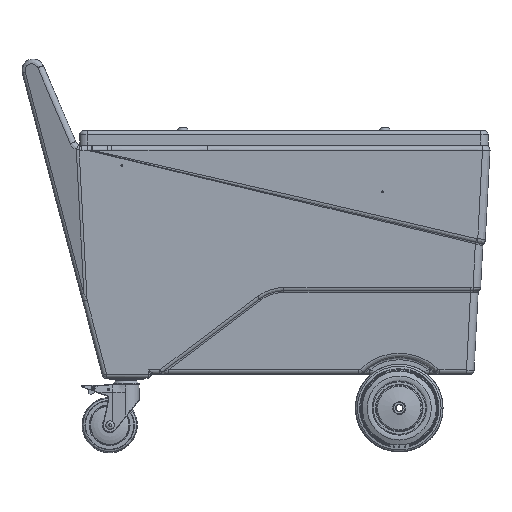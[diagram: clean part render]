
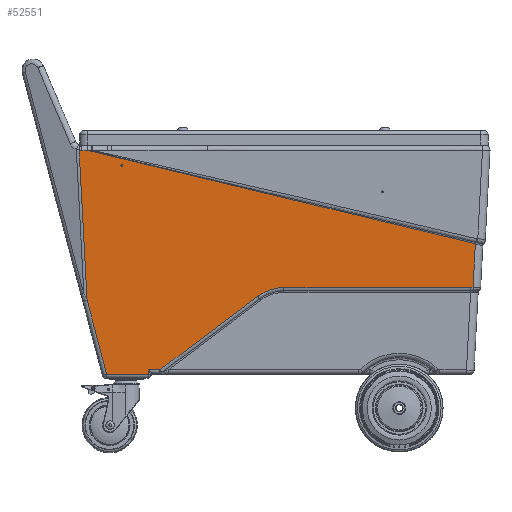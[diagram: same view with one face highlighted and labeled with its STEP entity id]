
A CAD part, left-side view. The second image highlights one B-rep face of the part: STEP entity #52551.
In plain terms, the highlighted planar face has unit normal (-0.999, 0, -0.035).
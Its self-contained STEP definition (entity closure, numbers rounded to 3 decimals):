
#1903=PLANE('',#57901);
#3637=LINE('',#82381,#7091);
#3641=LINE('',#82691,#7095);
#3648=LINE('',#84710,#7102);
#3649=LINE('',#84762,#7103);
#3651=LINE('',#84985,#7105);
#3654=LINE('',#85322,#7108);
#3663=LINE('',#85845,#7117);
#3664=LINE('',#85849,#7118);
#3665=LINE('',#85853,#7119);
#3666=LINE('',#85854,#7120);
#7091=VECTOR('',#64495,1000.);
#7095=VECTOR('',#64535,1000.);
#7102=VECTOR('',#64908,1000.);
#7103=VECTOR('',#64913,1000.);
#7105=VECTOR('',#64967,1000.);
#7108=VECTOR('',#65036,1000.);
#7117=VECTOR('',#65141,1000.);
#7118=VECTOR('',#65146,1000.);
#7119=VECTOR('',#65149,1000.);
#7120=VECTOR('',#65150,1000.);
#10482=B_SPLINE_CURVE_WITH_KNOTS('',3,(#84696,#84697,#84698,#84699),
 .UNSPECIFIED.,.F.,.F.,(4,4),(0.,0.006),.UNSPECIFIED.);
#10485=B_SPLINE_CURVE_WITH_KNOTS('',3,(#84752,#84753,#84754,#84755,#84756,
#84757,#84758,#84759,#84760),.UNSPECIFIED.,.F.,.F.,(4,1,1,1,1,1,4),(0.,
0.016,0.024,0.032,0.04,
0.047,0.063),.UNSPECIFIED.);
#11538=ELLIPSE('',#57854,25.015,25.);
#11544=ELLIPSE('',#57902,2.068,2.067);
#11545=ELLIPSE('',#57903,4.002,4.);
#13760=ORIENTED_EDGE('',*,*,#29284,.T.);
#13761=ORIENTED_EDGE('',*,*,#29285,.T.);
#13762=ORIENTED_EDGE('',*,*,#29286,.T.);
#13763=ORIENTED_EDGE('',*,*,#29283,.T.);
#13764=ORIENTED_EDGE('',*,*,#29287,.T.);
#13765=ORIENTED_EDGE('',*,*,#29180,.T.);
#13766=ORIENTED_EDGE('',*,*,#29179,.T.);
#13767=ORIENTED_EDGE('',*,*,#29176,.T.);
#13768=ORIENTED_EDGE('',*,*,#29172,.T.);
#13769=ORIENTED_EDGE('',*,*,#28939,.T.);
#13770=ORIENTED_EDGE('',*,*,#28981,.T.);
#13771=ORIENTED_EDGE('',*,*,#29234,.T.);
#13772=ORIENTED_EDGE('',*,*,#29236,.T.);
#13773=ORIENTED_EDGE('',*,*,#29202,.T.);
#13774=ORIENTED_EDGE('',*,*,#29288,.T.);
#28939=EDGE_CURVE('',#36960,#36961,#3637,.F.);
#28981=EDGE_CURVE('',#36961,#36987,#3641,.F.);
#29172=EDGE_CURVE('',#37034,#36960,#10482,.T.);
#29176=EDGE_CURVE('',#37036,#37034,#3648,.T.);
#29179=EDGE_CURVE('',#37039,#37036,#10485,.T.);
#29180=EDGE_CURVE('',#37040,#37039,#3649,.T.);
#29202=EDGE_CURVE('',#37043,#37042,#3651,.F.);
#29234=EDGE_CURVE('',#36987,#37047,#3654,.T.);
#29236=EDGE_CURVE('',#37047,#37043,#11538,.F.);
#29283=EDGE_CURVE('',#37064,#37066,#3663,.T.);
#29284=EDGE_CURVE('',#37067,#37067,#11544,.F.);
#29285=EDGE_CURVE('',#37068,#37069,#3664,.F.);
#29286=EDGE_CURVE('',#37069,#37064,#11545,.T.);
#29287=EDGE_CURVE('',#37066,#37040,#3665,.F.);
#29288=EDGE_CURVE('',#37042,#37068,#3666,.F.);
#36960=VERTEX_POINT('',#82382);
#36961=VERTEX_POINT('',#82383);
#36987=VERTEX_POINT('',#82690);
#37034=VERTEX_POINT('',#84691);
#37036=VERTEX_POINT('',#84703);
#37039=VERTEX_POINT('',#84743);
#37040=VERTEX_POINT('',#84763);
#37042=VERTEX_POINT('',#84984);
#37043=VERTEX_POINT('',#84986);
#37047=VERTEX_POINT('',#85321);
#37064=VERTEX_POINT('',#85837);
#37066=VERTEX_POINT('',#85844);
#37067=VERTEX_POINT('',#85848);
#37068=VERTEX_POINT('',#85850);
#37069=VERTEX_POINT('',#85851);
#44578=EDGE_LOOP('',(#13760));
#44579=EDGE_LOOP('',(#13761,#13762,#13763,#13764,#13765,#13766,#13767,#13768,
#13769,#13770,#13771,#13772,#13773,#13774));
#48397=FACE_BOUND('',#44578,.T.);
#48398=FACE_BOUND('',#44579,.T.);
#52551=ADVANCED_FACE('',(#48397,#48398),#1903,.T.);
#57854=AXIS2_PLACEMENT_3D('',#85336,#65039,#65040);
#57901=AXIS2_PLACEMENT_3D('',#85846,#65142,#65143);
#57902=AXIS2_PLACEMENT_3D('',#85847,#65144,#65145);
#57903=AXIS2_PLACEMENT_3D('',#85852,#65147,#65148);
#64495=DIRECTION('',(0.035,0.052,-0.998));
#64535=DIRECTION('',(0.008,-0.972,-0.234));
#64908=DIRECTION('',(0.,-1.,0.));
#64913=DIRECTION('',(-0.021,-0.798,0.602));
#64967=DIRECTION('',(-0.035,0.052,0.998));
#65036=DIRECTION('',(0.,1.,0.));
#65039=DIRECTION('',(-0.999,0.,-0.035));
#65040=DIRECTION('',(-0.035,0.,0.999));
#65141=DIRECTION('',(-0.035,0.,0.999));
#65142=DIRECTION('',(-0.999,0.,-0.035));
#65143=DIRECTION('',(-0.001,0.999,0.035));
#65144=DIRECTION('',(-0.999,0.,-0.035));
#65145=DIRECTION('',(0.035,0.,-0.999));
#65146=DIRECTION('',(0.,1.,0.));
#65147=DIRECTION('',(-0.999,0.,-0.035));
#65148=DIRECTION('',(0.035,0.,-0.999));
#65149=DIRECTION('',(0.,1.,0.));
#65150=DIRECTION('',(-0.034,0.256,0.966));
#82381=CARTESIAN_POINT('',(-299.848,-433.023,-210.394));
#82382=CARTESIAN_POINT('',(-295.353,-426.277,-339.115));
#82383=CARTESIAN_POINT('',(-298.784,-431.426,-240.865));
#82690=CARTESIAN_POINT('',(-306.136,442.587,-30.349));
#82691=CARTESIAN_POINT('',(-306.334,466.131,-24.678));
#84691=CARTESIAN_POINT('',(-295.335,-420.798,-339.648));
#84696=CARTESIAN_POINT('',(-295.335,-420.798,-339.648));
#84697=CARTESIAN_POINT('',(-295.335,-422.641,-339.648));
#84698=CARTESIAN_POINT('',(-295.343,-424.46,-339.396));
#84699=CARTESIAN_POINT('',(-295.353,-426.277,-339.115));
#84703=CARTESIAN_POINT('',(-295.335,-0.114,-339.648));
#84710=CARTESIAN_POINT('',(-295.335,-425.804,-339.648));
#84743=CARTESIAN_POINT('',(-294.641,59.264,-359.515));
#84752=CARTESIAN_POINT('',(-294.641,59.264,-359.515));
#84753=CARTESIAN_POINT('',(-294.753,55.,-356.302));
#84754=CARTESIAN_POINT('',(-294.901,48.297,-352.06));
#84755=CARTESIAN_POINT('',(-295.06,38.781,-347.522));
#84756=CARTESIAN_POINT('',(-295.159,31.326,-344.677));
#84757=CARTESIAN_POINT('',(-295.237,23.642,-342.44));
#84758=CARTESIAN_POINT('',(-295.312,13.237,-340.303));
#84759=CARTESIAN_POINT('',(-295.335,5.227,-339.648));
#84760=CARTESIAN_POINT('',(-295.335,-0.114,-339.648));
#84762=CARTESIAN_POINT('',(-294.643,59.18,-359.452));
#84763=CARTESIAN_POINT('',(-288.85,279.333,-525.349));
#84984=CARTESIAN_POINT('',(-294.367,443.525,-367.351));
#84985=CARTESIAN_POINT('',(-300.051,452.056,-204.586));
#84986=CARTESIAN_POINT('',(-306.162,461.227,-29.588));
#85321=CARTESIAN_POINT('',(-306.136,455.106,-30.349));
#85322=CARTESIAN_POINT('',(-306.136,64.999,-30.349));
#85336=CARTESIAN_POINT('',(-307.009,455.106,-5.349));
#85837=CARTESIAN_POINT('',(-288.507,304.355,-535.174));
#85844=CARTESIAN_POINT('',(-288.85,304.355,-525.349));
#85845=CARTESIAN_POINT('',(-300.759,304.355,-184.326));
#85846=CARTESIAN_POINT('',(-300.759,64.999,-184.326));
#85847=CARTESIAN_POINT('',(-304.926,365.,-65.));
#85848=CARTESIAN_POINT('',(-304.853,365.,-67.067));
#85849=CARTESIAN_POINT('',(-288.502,304.355,-535.314));
#85850=CARTESIAN_POINT('',(-288.502,399.02,-535.314));
#85851=CARTESIAN_POINT('',(-288.502,304.358,-535.314));
#85852=CARTESIAN_POINT('',(-288.507,308.355,-535.174));
#85853=CARTESIAN_POINT('',(-288.85,64.999,-525.349));
#85854=CARTESIAN_POINT('',(-288.601,399.775,-532.464));
